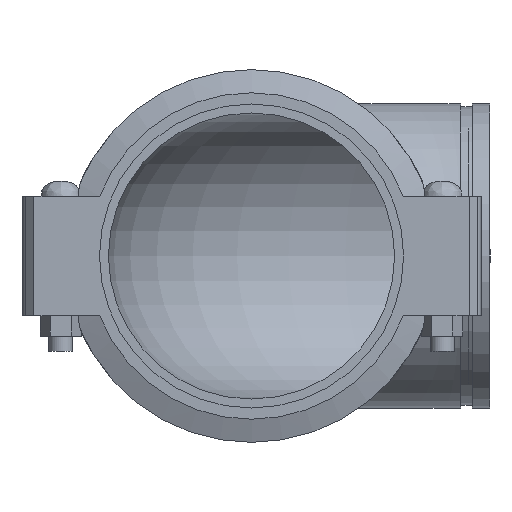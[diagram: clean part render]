
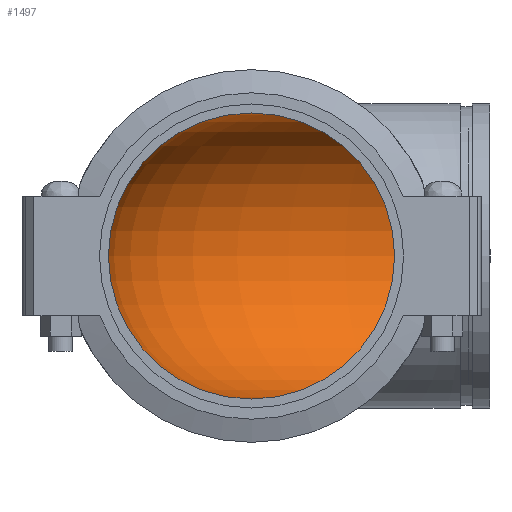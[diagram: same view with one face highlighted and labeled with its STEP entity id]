
A CAD part, left-side view. The second image highlights one B-rep face of the part: STEP entity #1497.
In plain terms, the highlighted toroidal (fillet/blend) face has major radius 230.988 mm and minor radius 152.4 mm.
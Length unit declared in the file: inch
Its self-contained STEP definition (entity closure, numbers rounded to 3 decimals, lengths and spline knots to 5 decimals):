
#48=TOROIDAL_SURFACE('',#1707,9.094,6.);
#308=FACE_OUTER_BOUND('',#399,.T.);
#399=EDGE_LOOP('',(#973,#974,#975,#976,#977,#978));
#511=CIRCLE('',#1704,6.);
#512=CIRCLE('',#1705,6.);
#514=CIRCLE('',#1708,6.);
#515=CIRCLE('',#1709,3.094);
#516=CIRCLE('',#1710,6.);
#607=VERTEX_POINT('',#2625);
#608=VERTEX_POINT('',#2626);
#610=VERTEX_POINT('',#2633);
#611=VERTEX_POINT('',#2634);
#753=EDGE_CURVE('',#607,#608,#511,.T.);
#754=EDGE_CURVE('',#608,#607,#512,.T.);
#757=EDGE_CURVE('',#610,#611,#514,.T.);
#758=EDGE_CURVE('',#611,#608,#515,.T.);
#759=EDGE_CURVE('',#611,#610,#516,.T.);
#973=ORIENTED_EDGE('',*,*,#757,.T.);
#974=ORIENTED_EDGE('',*,*,#758,.T.);
#975=ORIENTED_EDGE('',*,*,#753,.F.);
#976=ORIENTED_EDGE('',*,*,#754,.F.);
#977=ORIENTED_EDGE('',*,*,#758,.F.);
#978=ORIENTED_EDGE('',*,*,#759,.T.);
#1497=ADVANCED_FACE('',(#308),#48,.F.);
#1704=AXIS2_PLACEMENT_3D('',#2627,#1909,#1910);
#1705=AXIS2_PLACEMENT_3D('',#2628,#1911,#1912);
#1707=AXIS2_PLACEMENT_3D('',#2632,#1916,#1917);
#1708=AXIS2_PLACEMENT_3D('',#2635,#1918,#1919);
#1709=AXIS2_PLACEMENT_3D('',#2636,#1920,#1921);
#1710=AXIS2_PLACEMENT_3D('',#2637,#1922,#1923);
#1909=DIRECTION('center_axis',(0.,1.,0.));
#1910=DIRECTION('ref_axis',(1.,0.,0.));
#1911=DIRECTION('center_axis',(0.,1.,0.));
#1912=DIRECTION('ref_axis',(1.,0.,0.));
#1916=DIRECTION('center_axis',(0.,0.,1.));
#1917=DIRECTION('ref_axis',(1.,0.,0.));
#1918=DIRECTION('center_axis',(1.,0.,0.));
#1919=DIRECTION('ref_axis',(0.,-1.,0.));
#1920=DIRECTION('center_axis',(0.,0.,1.));
#1921=DIRECTION('ref_axis',(1.,0.,0.));
#1922=DIRECTION('center_axis',(1.,0.,0.));
#1923=DIRECTION('ref_axis',(0.,-1.,0.));
#2625=CARTESIAN_POINT('',(-6.,-9.094,0.));
#2626=CARTESIAN_POINT('',(6.,-9.094,0.));
#2627=CARTESIAN_POINT('Origin',(0.,-9.094,
0.));
#2628=CARTESIAN_POINT('Origin',(0.,-9.094,
0.));
#2632=CARTESIAN_POINT('Origin',(9.094,-9.094,0.));
#2633=CARTESIAN_POINT('',(9.094,6.,0.));
#2634=CARTESIAN_POINT('',(9.094,-6.,0.));
#2635=CARTESIAN_POINT('Origin',(9.094,0.,0.));
#2636=CARTESIAN_POINT('Origin',(9.094,-9.094,0.));
#2637=CARTESIAN_POINT('Origin',(9.094,0.,0.));
